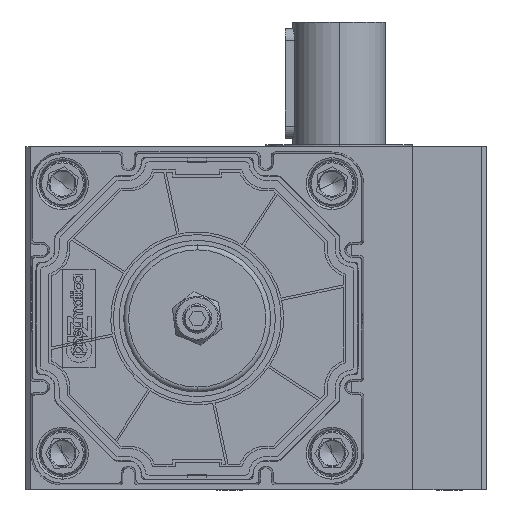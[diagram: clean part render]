
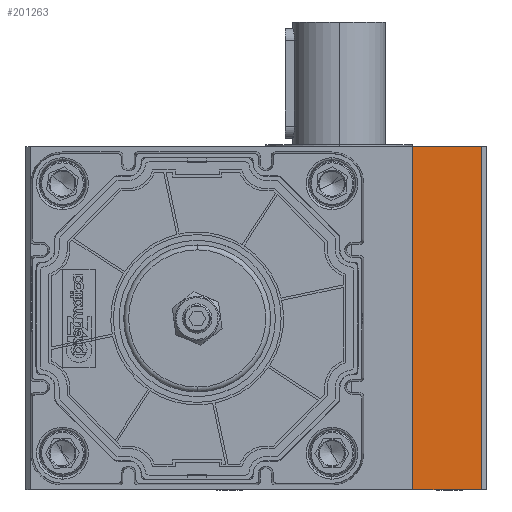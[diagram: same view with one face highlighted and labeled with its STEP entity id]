
A CAD part, left-side view. The second image highlights one B-rep face of the part: STEP entity #201263.
In plain terms, the highlighted planar face has unit normal (-1, 0, 0).
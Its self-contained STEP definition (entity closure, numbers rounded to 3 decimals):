
#1586 = DIRECTION ( 'NONE',  ( -1., 0., 0. ) ) ;
#18573 = LINE ( 'NONE', #87673, #178762 ) ;
#18844 = VERTEX_POINT ( 'NONE', #200094 ) ;
#36369 = CARTESIAN_POINT ( 'NONE',  ( -62.5, -58., 0. ) ) ;
#36736 = EDGE_LOOP ( 'NONE', ( #94315, #86674, #102138, #197095 ) ) ;
#37315 = EDGE_CURVE ( 'NONE', #67997, #18844, #154200, .T. ) ;
#56964 = CARTESIAN_POINT ( 'NONE',  ( -62.5, -30., 0. ) ) ;
#66481 = VERTEX_POINT ( 'NONE', #83579 ) ;
#67222 = VERTEX_POINT ( 'NONE', #209857 ) ;
#67997 = VERTEX_POINT ( 'NONE', #95839 ) ;
#75446 = DIRECTION ( 'NONE',  ( 0., 0., -1. ) ) ;
#83342 = EDGE_CURVE ( 'NONE', #66481, #67997, #18573, .T. ) ;
#83533 = CARTESIAN_POINT ( 'NONE',  ( -62.5, 33.237, -70. ) ) ;
#83579 = CARTESIAN_POINT ( 'NONE',  ( -62.5, -30., 70. ) ) ;
#86103 = DIRECTION ( 'NONE',  ( 0., 0., -1. ) ) ;
#86674 = ORIENTED_EDGE ( 'NONE', *, *, #37315, .F. ) ;
#87673 = CARTESIAN_POINT ( 'NONE',  ( -62.5, 33.237, 70. ) ) ;
#94315 = ORIENTED_EDGE ( 'NONE', *, *, #158500, .T. ) ;
#95839 = CARTESIAN_POINT ( 'NONE',  ( -62.5, -58., 70. ) ) ;
#102138 = ORIENTED_EDGE ( 'NONE', *, *, #83342, .F. ) ;
#102369 = CARTESIAN_POINT ( 'NONE',  ( -62.5, -58., 0. ) ) ;
#102838 = EDGE_CURVE ( 'NONE', #66481, #67222, #142882, .T. ) ;
#123530 = VECTOR ( 'NONE', #138282, 1000. ) ;
#126596 = VECTOR ( 'NONE', #86103, 1000. ) ;
#137350 = VECTOR ( 'NONE', #75446, 1000. ) ;
#138282 = DIRECTION ( 'NONE',  ( 0., -1., 0. ) ) ;
#141204 = FACE_OUTER_BOUND ( 'NONE', #36736, .T. ) ;
#142068 = PLANE ( 'NONE',  #148705 ) ;
#142882 = LINE ( 'NONE', #56964, #137350 ) ;
#148705 = AXIS2_PLACEMENT_3D ( 'NONE', #36369, #1586, #157510 ) ;
#154200 = LINE ( 'NONE', #102369, #126596 ) ;
#157510 = DIRECTION ( 'NONE',  ( 0., 0., 1. ) ) ;
#158500 = EDGE_CURVE ( 'NONE', #67222, #18844, #212042, .T. ) ;
#178762 = VECTOR ( 'NONE', #212856, 1000. ) ;
#197095 = ORIENTED_EDGE ( 'NONE', *, *, #102838, .T. ) ;
#200094 = CARTESIAN_POINT ( 'NONE',  ( -62.5, -58., -70. ) ) ;
#201263 = ADVANCED_FACE ( 'NONE', ( #141204 ), #142068, .T. ) ;
#209857 = CARTESIAN_POINT ( 'NONE',  ( -62.5, -30., -70. ) ) ;
#212042 = LINE ( 'NONE', #83533, #123530 ) ;
#212856 = DIRECTION ( 'NONE',  ( 0., -1., 0. ) ) ;
